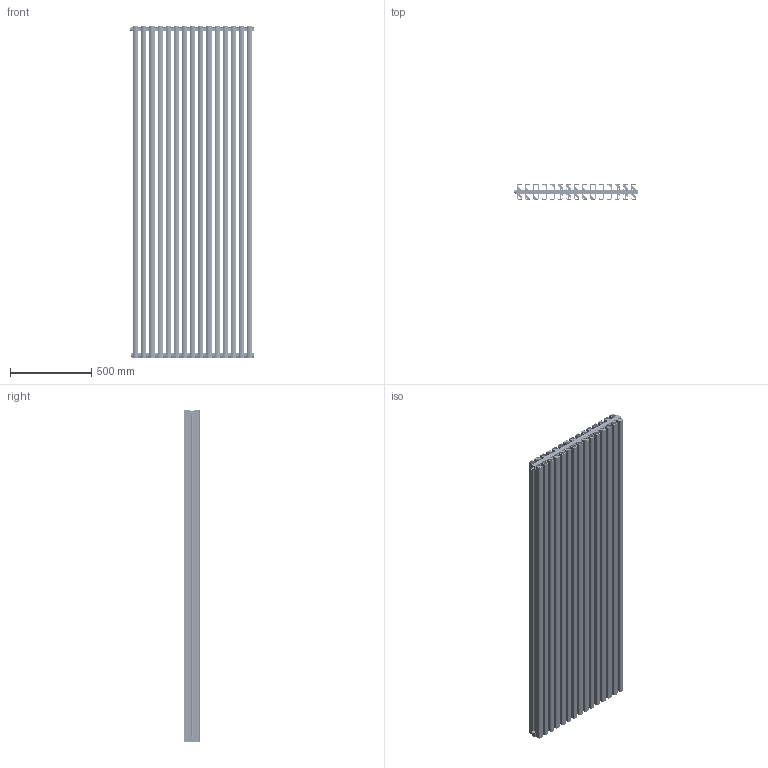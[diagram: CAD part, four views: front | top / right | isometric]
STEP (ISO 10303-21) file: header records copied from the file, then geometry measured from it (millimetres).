
FILE_DESCRIPTION (( 'STEP AP214' ), '1' );
FILE_NAME ('TONALE 2000_15.STEP', '2024-07-22T09:30:48', ( '' ), ( '' ), 'SwSTEP 2.0', 'SolidWorks 2024', '' );
FILE_SCHEMA (( 'AUTOMOTIVE_DESIGN' ));
Length unit declared in the file: millimetre
Products named in the file (12): Art.011; Art.041; P3EL00004A_15 elementi; ETV600G_foro Ø 4; P3EL00004A_15 elementi CS; TONALE 2000_15; O-RING 2,4 D16,3; EPC10022D_1000; P3EL00002A_2000; Assieme vitone con o_ring; Coperchietto
Assembly tree (75 placements, depth 3):
  TONALE 2000_15
    EPC10022D_1000  x15
    Art.011  x3
      Art.011
      Coperchietto
    Art.041
    Art.011  x4
    P3EL00002A_2000  x15
    P3EL00004A_15 elementi CS
    Assieme vitone con o_ring  x30
      ETV600G_foro Ø 4
      O-RING 2,4 D16,3
    P3EL00004A_15 elementi
Bounding box: 766.3 x 95 x 2039.3 mm (x, y, z)
Volume: 18029332.2 mm3; surface area: 22061702.3 mm2
Topology: 136 solids, 136 shells, 8749 faces, 24144 edges, 15358 vertices
Faces by surface type: cylinder 3715, plane 3692, cone 839, torus 275, bspline 168, sphere 60
Entity records: 41603 total; most frequent: CARTESIAN_POINT 16036, DIRECTION 5285, ORIENTED_EDGE 5198, EDGE_CURVE 2599, AXIS2_PLACEMENT_3D 1938, VERTEX_POINT 1683, VECTOR 1409, LINE 1409
